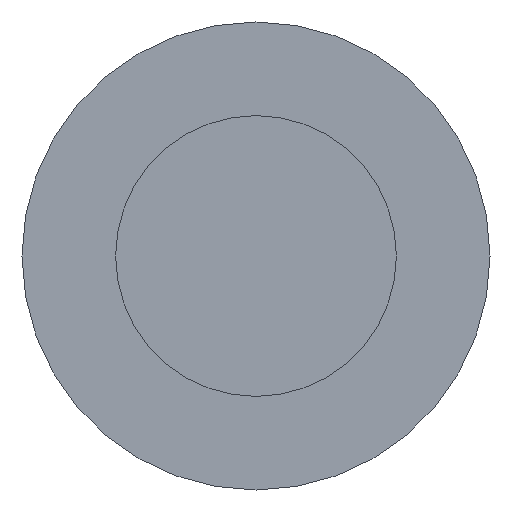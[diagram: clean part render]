
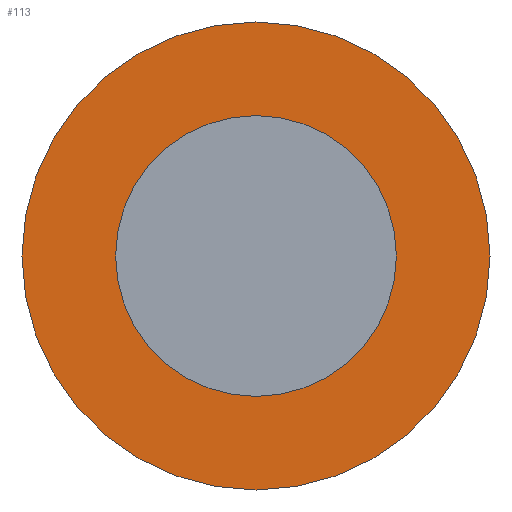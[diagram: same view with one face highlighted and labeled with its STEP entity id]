
A CAD part, front view. The second image highlights one B-rep face of the part: STEP entity #113.
In plain terms, the highlighted planar face has unit normal (0, -1, 0).
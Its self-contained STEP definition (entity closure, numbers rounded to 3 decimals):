
#31 = CYLINDRICAL_SURFACE('',#32,3.);
#32 = AXIS2_PLACEMENT_3D('',#33,#34,#35);
#33 = CARTESIAN_POINT('',(70.25,54.45,-212.));
#34 = DIRECTION('',(0.,-1.,-0.));
#35 = DIRECTION('',(1.,0.,0.));
#56 = VERTEX_POINT('',#57);
#57 = CARTESIAN_POINT('',(73.25,62.7,-212.));
#78 = EDGE_CURVE('',#56,#56,#79,.T.);
#79 = SURFACE_CURVE('',#80,(#85,#92),.PCURVE_S1.);
#80 = CIRCLE('',#81,3.);
#81 = AXIS2_PLACEMENT_3D('',#82,#83,#84);
#82 = CARTESIAN_POINT('',(70.25,62.7,-212.));
#83 = DIRECTION('',(0.,-1.,-0.));
#84 = DIRECTION('',(1.,0.,0.));
#85 = PCURVE('',#31,#86);
#86 = DEFINITIONAL_REPRESENTATION('',(#87),#91);
#87 = LINE('',#88,#89);
#88 = CARTESIAN_POINT('',(-6.283,-8.25));
#89 = VECTOR('',#90,1.);
#90 = DIRECTION('',(1.,-0.));
#91 = ( GEOMETRIC_REPRESENTATION_CONTEXT(2) 
PARAMETRIC_REPRESENTATION_CONTEXT() REPRESENTATION_CONTEXT('2D SPACE',''
  ) );
#92 = PCURVE('',#93,#98);
#93 = PLANE('',#94);
#94 = AXIS2_PLACEMENT_3D('',#95,#96,#97);
#95 = CARTESIAN_POINT('',(70.25,62.7,-212.));
#96 = DIRECTION('',(0.,1.,0.));
#97 = DIRECTION('',(0.,-0.,1.));
#98 = DEFINITIONAL_REPRESENTATION('',(#99),#107);
#99 = ( BOUNDED_CURVE() B_SPLINE_CURVE(2,(#100,#101,#102,#103,#104,#105,
#106),.UNSPECIFIED.,.T.,.F.) B_SPLINE_CURVE_WITH_KNOTS((1,2,2,2,2,1),(
    -2.094,0.,2.094,4.189,6.283,
8.378),.UNSPECIFIED.) CURVE() GEOMETRIC_REPRESENTATION_ITEM() 
RATIONAL_B_SPLINE_CURVE((1.,0.5,1.,0.5,1.,0.5,1.)) REPRESENTATION_ITEM(
  '') );
#100 = CARTESIAN_POINT('',(0.,3.));
#101 = CARTESIAN_POINT('',(5.196,3.));
#102 = CARTESIAN_POINT('',(2.598,-1.5));
#103 = CARTESIAN_POINT('',(0.,-6.));
#104 = CARTESIAN_POINT('',(-2.598,-1.5));
#105 = CARTESIAN_POINT('',(-5.196,3.));
#106 = CARTESIAN_POINT('',(0.,3.));
#107 = ( GEOMETRIC_REPRESENTATION_CONTEXT(2) 
PARAMETRIC_REPRESENTATION_CONTEXT() REPRESENTATION_CONTEXT('2D SPACE',''
  ) );
#113 = ADVANCED_FACE('',(#114,#145),#93,.F.);
#114 = FACE_BOUND('',#115,.F.);
#115 = EDGE_LOOP('',(#116));
#116 = ORIENTED_EDGE('',*,*,#117,.T.);
#117 = EDGE_CURVE('',#118,#118,#120,.T.);
#118 = VERTEX_POINT('',#119);
#119 = CARTESIAN_POINT('',(75.25,62.7,-212.));
#120 = SURFACE_CURVE('',#121,(#126,#133),.PCURVE_S1.);
#121 = CIRCLE('',#122,5.);
#122 = AXIS2_PLACEMENT_3D('',#123,#124,#125);
#123 = CARTESIAN_POINT('',(70.25,62.7,-212.));
#124 = DIRECTION('',(-0.,1.,0.));
#125 = DIRECTION('',(1.,0.,0.));
#126 = PCURVE('',#93,#127);
#127 = DEFINITIONAL_REPRESENTATION('',(#128),#132);
#128 = CIRCLE('',#129,5.);
#129 = AXIS2_PLACEMENT_2D('',#130,#131);
#130 = CARTESIAN_POINT('',(0.,0.));
#131 = DIRECTION('',(0.,1.));
#132 = ( GEOMETRIC_REPRESENTATION_CONTEXT(2) 
PARAMETRIC_REPRESENTATION_CONTEXT() REPRESENTATION_CONTEXT('2D SPACE',''
  ) );
#133 = PCURVE('',#134,#139);
#134 = CYLINDRICAL_SURFACE('',#135,5.);
#135 = AXIS2_PLACEMENT_3D('',#136,#137,#138);
#136 = CARTESIAN_POINT('',(70.25,62.7,-212.));
#137 = DIRECTION('',(0.,-1.,-0.));
#138 = DIRECTION('',(1.,0.,0.));
#139 = DEFINITIONAL_REPRESENTATION('',(#140),#144);
#140 = LINE('',#141,#142);
#141 = CARTESIAN_POINT('',(-0.,0.));
#142 = VECTOR('',#143,1.);
#143 = DIRECTION('',(-1.,0.));
#144 = ( GEOMETRIC_REPRESENTATION_CONTEXT(2) 
PARAMETRIC_REPRESENTATION_CONTEXT() REPRESENTATION_CONTEXT('2D SPACE',''
  ) );
#145 = FACE_BOUND('',#146,.F.);
#146 = EDGE_LOOP('',(#147));
#147 = ORIENTED_EDGE('',*,*,#78,.T.);
